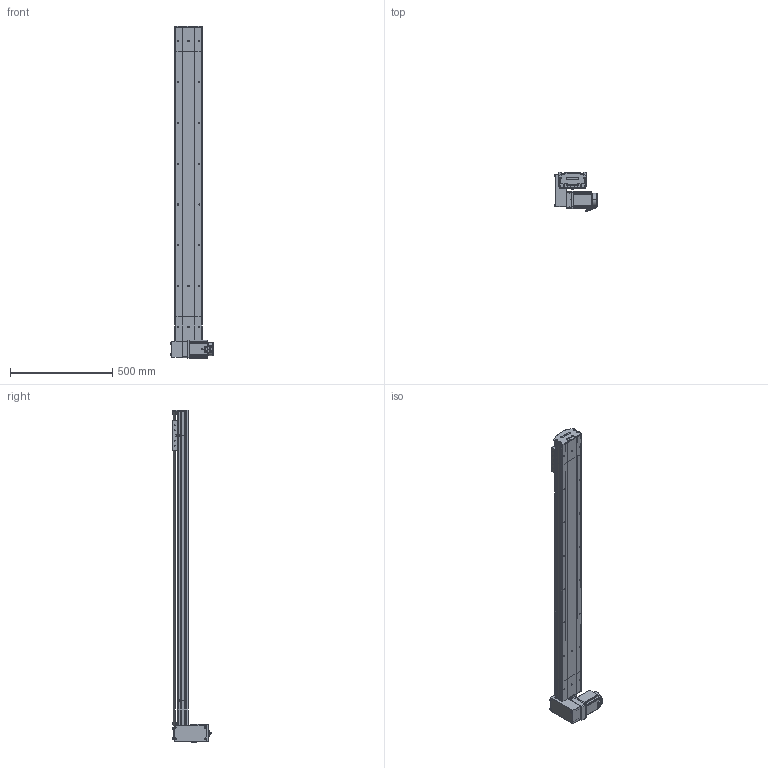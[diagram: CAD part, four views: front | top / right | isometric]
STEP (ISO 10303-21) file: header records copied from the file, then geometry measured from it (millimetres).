
FILE_DESCRIPTION (( 'STEP AP214' ), '1' );
FILE_NAME ('D14 TBH RU S1300.STEP', '2010-06-29T13:55:03', ( 'Conseil Régional Haute-Normandie' ), ( 'Conseil Régional Haute-Normandie' ), 'SwSTEP 2.0', 'SolidWorks 2010', '' );
FILE_SCHEMA (( 'AUTOMOTIVE_DESIGN' ));
Length unit declared in the file: millimetre
Products named in the file (39): Moteur motionking 90BLDC100A-640; guide D14; Chariot D14; chariot D14B_Default; Cvis M5 L70_Default; Cache arbre_Default; Cache_Default; Plaque racord D14_Default; Vis M5 L16-2_Default; vis M5 L5_Default; renvoi RH_Default; Conecteur_Default; Conecteur2_Default; codeur 90BLDC100-640; corps 90BLDC100A-640; avant 90BLDC100A-640; vis M5 L16_Default; poulie head_Default; vis M5 L12_Default; D14 couroie L1300_Default; Rail + couroie D14 Course 1300 ; Couroie_Default; corpl 1300_Default; couvercle D14 course L1300_Default; Tail D14B_Default; Arbre+rail tail D14; plaque de  bout head D14 RU_Default; Arbre+rail head D14; couvercle D14_Default; corpl tail D14_Default; plaque de  bout tail D14_Default; couroie 2_Default; tete d''axe haut D14; D14 TB H RU_Default; couvercle D14 head_Default; corp head D14_Default; poulie tail_Default; vis M5 L8 90°_Default; D14 TBH RU S1300
Assembly tree (68 placements, depth 4):
  D14 TBH RU S1300
    Tail D14B_Default
      corpl tail D14_Default
      tete d''axe haut D14
      Arbre+rail tail D14
      vis M5 L16_Default  x2
      plaque de  bout tail D14_Default
      Couroie_Default
      vis M5 L8 90°_Default  x2
      couvercle D14_Default
      vis M5 L12_Default  x4
      poulie tail_Default
    chariot D14B_Default
      Chariot D14
      vis M5 L12_Default  x4
      guide D14  x2
    D14 couroie L1300_Default
      corpl 1300_Default
      Rail + couroie D14 Course 1300 
      couvercle D14 course L1300_Default
    D14 TB H RU_Default
      vis M5 L12_Default  x12
      Cvis M5 L70_Default  x4
      Cache_Default  x2
      poulie head_Default
      couroie 2_Default
      vis M5 L5_Default  x2
      Moteur motionking 90BLDC100A-640
        codeur 90BLDC100-640
        Conecteur_Default
        corps 90BLDC100A-640
        Conecteur2_Default
        avant 90BLDC100A-640
      Arbre+rail head D14
      couvercle D14 head_Default
      Plaque racord D14_Default
      Vis M5 L16-2_Default  x4
      Cache arbre_Default
      corp head D14_Default
      renvoi RH_Default
      plaque de  bout head D14 RU_Default
Bounding box: 207.2 x 191.1 x 1625.75 mm (x, y, z)
Volume: 7001328.9 mm3; surface area: 2331407.4 mm2
Topology: 92 solids, 92 shells, 2629 faces, 6431 edges, 4146 vertices
Faces by surface type: plane 1589, cylinder 727, bspline 136, torus 89, cone 84, sphere 4
Entity records: 79172 total; most frequent: CARTESIAN_POINT 23545, ORIENTED_EDGE 9722, DIRECTION 9496, EDGE_CURVE 4861, LINE 3274, VECTOR 3274, VERTEX_POINT 3196, AXIS2_PLACEMENT_3D 3111
